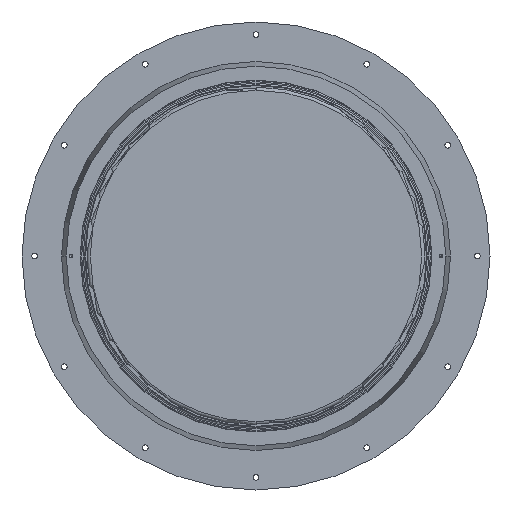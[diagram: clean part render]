
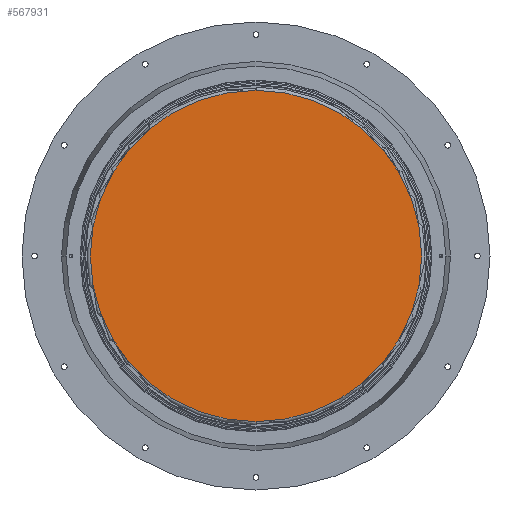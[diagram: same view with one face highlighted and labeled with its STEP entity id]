
A CAD part, front view. The second image highlights one B-rep face of the part: STEP entity #567931.
In plain terms, the highlighted planar face has unit normal (0, -1, 0).
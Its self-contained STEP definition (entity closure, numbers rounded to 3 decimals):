
#12690 = PLANE ( 'NONE',  #110163 ) ;
#17966 = DIRECTION ( 'NONE',  ( 0., -1., 0. ) ) ;
#110163 = AXIS2_PLACEMENT_3D ( 'NONE', #594504, #278180, #647548 ) ;
#162895 = VERTEX_POINT ( 'NONE', #601387 ) ;
#199525 = FACE_OUTER_BOUND ( 'NONE', #570757, .T. ) ;
#218793 = DIRECTION ( 'NONE',  ( 0., -1., 0. ) ) ;
#274678 = EDGE_CURVE ( 'NONE', #651142, #162895, #300526, .T. ) ;
#275747 = ORIENTED_EDGE ( 'NONE', *, *, #274678, .T. ) ;
#278180 = DIRECTION ( 'NONE',  ( 0., 1., 0. ) ) ;
#285857 = AXIS2_PLACEMENT_3D ( 'NONE', #334284, #17966, #387384 ) ;
#300526 = CIRCLE ( 'NONE', #411466, 524. ) ;
#334284 = CARTESIAN_POINT ( 'NONE',  ( 0., 0., 0. ) ) ;
#383743 = ORIENTED_EDGE ( 'NONE', *, *, #433363, .T. ) ;
#387384 = DIRECTION ( 'NONE',  ( 0., 0., 1. ) ) ;
#411466 = AXIS2_PLACEMENT_3D ( 'NONE', #535088, #218793, #588194 ) ;
#433363 = EDGE_CURVE ( 'NONE', #162895, #651142, #610227, .T. ) ;
#535088 = CARTESIAN_POINT ( 'NONE',  ( 0., 0., 0. ) ) ;
#567931 = ADVANCED_FACE ( 'NONE', ( #199525 ), #12690, .F. ) ;
#570757 = EDGE_LOOP ( 'NONE', ( #383743, #275747 ) ) ;
#588194 = DIRECTION ( 'NONE',  ( 0., 0., 1. ) ) ;
#594504 = CARTESIAN_POINT ( 'NONE',  ( -524., 0., 500000. ) ) ;
#601387 = CARTESIAN_POINT ( 'NONE',  ( 0., 0., 524. ) ) ;
#610227 = CIRCLE ( 'NONE', #285857, 524. ) ;
#619439 = CARTESIAN_POINT ( 'NONE',  ( 0., 0., -524. ) ) ;
#647548 = DIRECTION ( 'NONE',  ( -1., 0., 0. ) ) ;
#651142 = VERTEX_POINT ( 'NONE', #619439 ) ;
